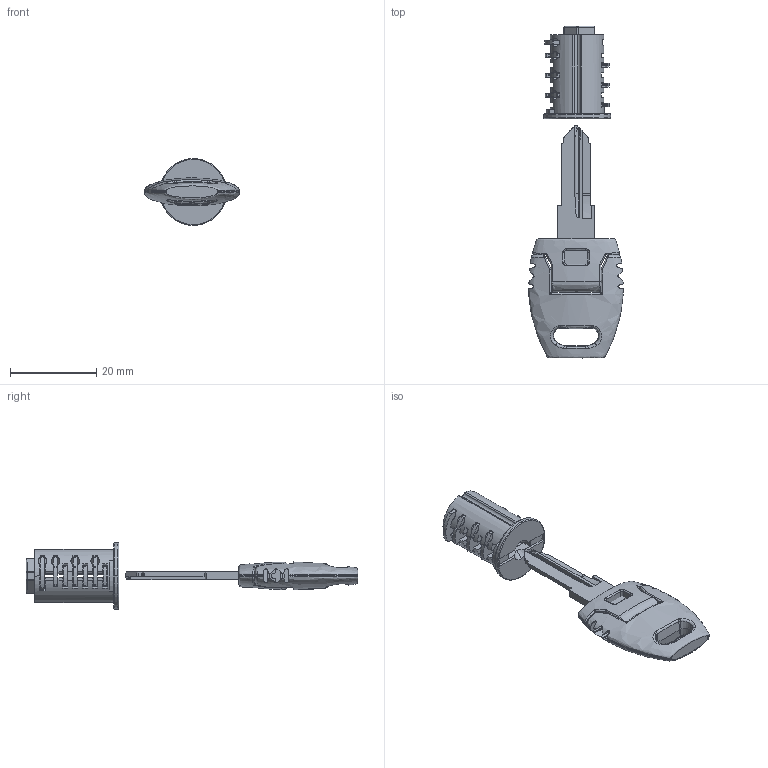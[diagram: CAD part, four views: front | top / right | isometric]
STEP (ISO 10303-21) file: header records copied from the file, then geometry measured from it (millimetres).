
FILE_DESCRIPTION (( 'STEP AP203' ), '1' );
FILE_NAME ('STRONG Cylindrická vložka + 2 klíèe zalamovací, S0001 - S0500 rùzné_403184_3D.STEP', '2022-05-04T07:02:44', ( '' ), ( '' ), 'SwSTEP 2.0', 'SolidWorks 2019', '' );
FILE_SCHEMA (( 'CONFIG_CONTROL_DESIGN' ));
Products named in the file (1): STRONG Cylindrická vložka + 2 klíèe zalamovací, S0001 - S0500 rùzné_403184_3D
Bounding box: 21.99 x 76.93 x 15.5 mm (x, y, z)
Volume: 4255.4 mm3; surface area: 5939.4 mm2
Topology: 11 solids, 12 shells, 1069 faces, 3035 edges, 1973 vertices
Faces by surface type: plane 486, cylinder 345, bspline 191, cone 27, sphere 10, torus 10
Entity records: 45404 total; most frequent: CARTESIAN_POINT 19228, ORIENTED_EDGE 6034, DIRECTION 4778, EDGE_CURVE 3017, VERTEX_POINT 1973, AXIS2_PLACEMENT_3D 1628, VECTOR 1522, LINE 1522
